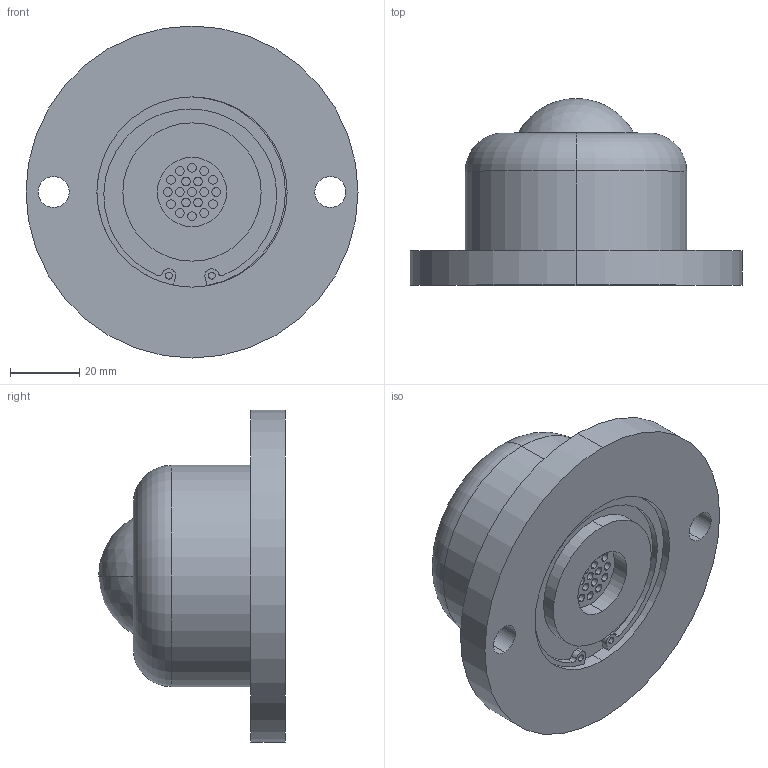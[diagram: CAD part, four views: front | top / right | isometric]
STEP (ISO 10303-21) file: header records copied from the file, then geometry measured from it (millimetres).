
FILE_DESCRIPTION (( 'STEP AP203' ), '1' );
FILE_NAME ('PV260FH.STEP', '2015-12-09T01:41:52', ( '' ), ( '' ), 'SwSTEP 2.0', 'SolidWorks 2013', '' );
FILE_SCHEMA (( 'CONFIG_CONTROL_DESIGN' ));
Length unit declared in the file: millimetre
Products named in the file (1): PV260FH
Bounding box: 96 x 54 x 96 mm (x, y, z)
Volume: 175046.6 mm3; surface area: 26250.1 mm2
Topology: 1 solids, 1 shells, 101 faces, 218 edges, 145 vertices
Faces by surface type: cylinder 65, plane 32, torus 2, sphere 2
Entity records: 2909 total; most frequent: DIRECTION 562, CARTESIAN_POINT 465, ORIENTED_EDGE 436, AXIS2_PLACEMENT_3D 242, EDGE_CURVE 218, VERTEX_POINT 145, CIRCLE 140, EDGE_LOOP 131
